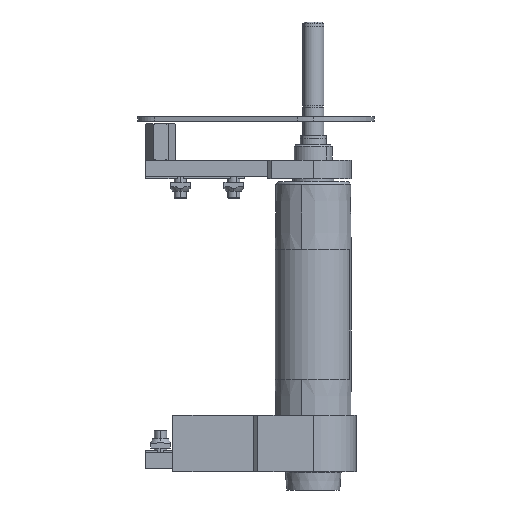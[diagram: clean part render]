
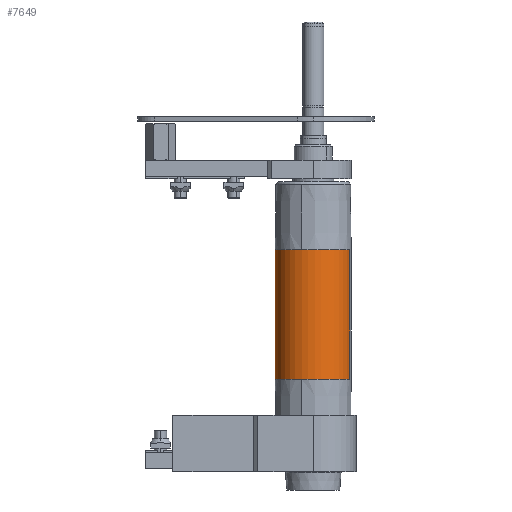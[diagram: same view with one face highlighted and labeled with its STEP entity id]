
A CAD part, front view. The second image highlights one B-rep face of the part: STEP entity #7649.
In plain terms, the highlighted cylindrical face has radius 25 mm (diameter 50 mm), a partial arc.
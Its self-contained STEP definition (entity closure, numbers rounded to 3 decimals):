
#538 = LINE ( 'NONE', #17895, #9610 ) ;
#682 = DIRECTION ( 'NONE',  ( 0., 0., 1. ) ) ;
#1823 = CIRCLE ( 'NONE', #9102, 25. ) ;
#2189 = DIRECTION ( 'NONE',  ( 0., -1., 0. ) ) ;
#2246 = DIRECTION ( 'NONE',  ( -1., 0., 0. ) ) ;
#2448 = CIRCLE ( 'NONE', #16331, 25. ) ;
#2491 = AXIS2_PLACEMENT_3D ( 'NONE', #13654, #12341, #18466 ) ;
#2624 = DIRECTION ( 'NONE',  ( 0., -1., 0. ) ) ;
#2822 = ORIENTED_EDGE ( 'NONE', *, *, #5415, .T. ) ;
#2966 = VECTOR ( 'NONE', #19370, 1000. ) ;
#3055 = ORIENTED_EDGE ( 'NONE', *, *, #8815, .F. ) ;
#3315 = VERTEX_POINT ( 'NONE', #10476 ) ;
#3763 = CIRCLE ( 'NONE', #14797, 25. ) ;
#4039 = EDGE_CURVE ( 'NONE', #8985, #14100, #1823, .T. ) ;
#4501 = CYLINDRICAL_SURFACE ( 'NONE', #15308, 25. ) ;
#4640 = EDGE_LOOP ( 'NONE', ( #10110, #2822, #12982, #3055, #14949, #12440 ) ) ;
#5135 = VERTEX_POINT ( 'NONE', #8937 ) ;
#5415 = EDGE_CURVE ( 'NONE', #18406, #16042, #14695, .T. ) ;
#6908 = CARTESIAN_POINT ( 'NONE',  ( -42.5, 0., 25. ) ) ;
#7460 = DIRECTION ( 'NONE',  ( -1., 0., 0. ) ) ;
#7572 = FACE_OUTER_BOUND ( 'NONE', #4640, .T. ) ;
#7649 = ADVANCED_FACE ( 'NONE', ( #7572 ), #4501, .T. ) ;
#7708 = LINE ( 'NONE', #10075, #2966 ) ;
#8458 = CARTESIAN_POINT ( 'NONE',  ( 42.5, 0., -25. ) ) ;
#8815 = EDGE_CURVE ( 'NONE', #14100, #3315, #3763, .T. ) ;
#8937 = CARTESIAN_POINT ( 'NONE',  ( 42.5, 0., 25. ) ) ;
#8985 = VERTEX_POINT ( 'NONE', #6908 ) ;
#9066 = EDGE_CURVE ( 'NONE', #5135, #18406, #2448, .T. ) ;
#9102 = AXIS2_PLACEMENT_3D ( 'NONE', #18084, #12001, #2624 ) ;
#9610 = VECTOR ( 'NONE', #7460, 1000. ) ;
#9739 = DIRECTION ( 'NONE',  ( -1., 0., 0. ) ) ;
#10075 = CARTESIAN_POINT ( 'NONE',  ( 85., 0., -25. ) ) ;
#10110 = ORIENTED_EDGE ( 'NONE', *, *, #9066, .T. ) ;
#10293 = DIRECTION ( 'NONE',  ( -1., 0., 0. ) ) ;
#10476 = CARTESIAN_POINT ( 'NONE',  ( -42.5, 0., -25. ) ) ;
#11375 = CARTESIAN_POINT ( 'NONE',  ( -42.5, 0., 0. ) ) ;
#11567 = EDGE_CURVE ( 'NONE', #16042, #3315, #7708, .T. ) ;
#11673 = CARTESIAN_POINT ( 'NONE',  ( 42.5, 25., 0. ) ) ;
#12001 = DIRECTION ( 'NONE',  ( -1., 0., 0. ) ) ;
#12341 = DIRECTION ( 'NONE',  ( -1., 0., 0. ) ) ;
#12440 = ORIENTED_EDGE ( 'NONE', *, *, #13420, .F. ) ;
#12982 = ORIENTED_EDGE ( 'NONE', *, *, #11567, .T. ) ;
#13420 = EDGE_CURVE ( 'NONE', #5135, #8985, #538, .T. ) ;
#13654 = CARTESIAN_POINT ( 'NONE',  ( 42.5, 0., 0. ) ) ;
#14100 = VERTEX_POINT ( 'NONE', #14921 ) ;
#14695 = CIRCLE ( 'NONE', #2491, 25. ) ;
#14797 = AXIS2_PLACEMENT_3D ( 'NONE', #11375, #2246, #2189 ) ;
#14921 = CARTESIAN_POINT ( 'NONE',  ( -42.5, 25., 0. ) ) ;
#14949 = ORIENTED_EDGE ( 'NONE', *, *, #4039, .F. ) ;
#15308 = AXIS2_PLACEMENT_3D ( 'NONE', #17353, #9739, #682 ) ;
#16042 = VERTEX_POINT ( 'NONE', #8458 ) ;
#16331 = AXIS2_PLACEMENT_3D ( 'NONE', #18043, #10293, #17909 ) ;
#17353 = CARTESIAN_POINT ( 'NONE',  ( 85., 0., 0. ) ) ;
#17895 = CARTESIAN_POINT ( 'NONE',  ( 85., 0., 25. ) ) ;
#17909 = DIRECTION ( 'NONE',  ( 0., -1., 0. ) ) ;
#18043 = CARTESIAN_POINT ( 'NONE',  ( 42.5, 0., 0. ) ) ;
#18084 = CARTESIAN_POINT ( 'NONE',  ( -42.5, 0., 0. ) ) ;
#18406 = VERTEX_POINT ( 'NONE', #11673 ) ;
#18466 = DIRECTION ( 'NONE',  ( 0., -1., 0. ) ) ;
#19370 = DIRECTION ( 'NONE',  ( -1., 0., 0. ) ) ;
